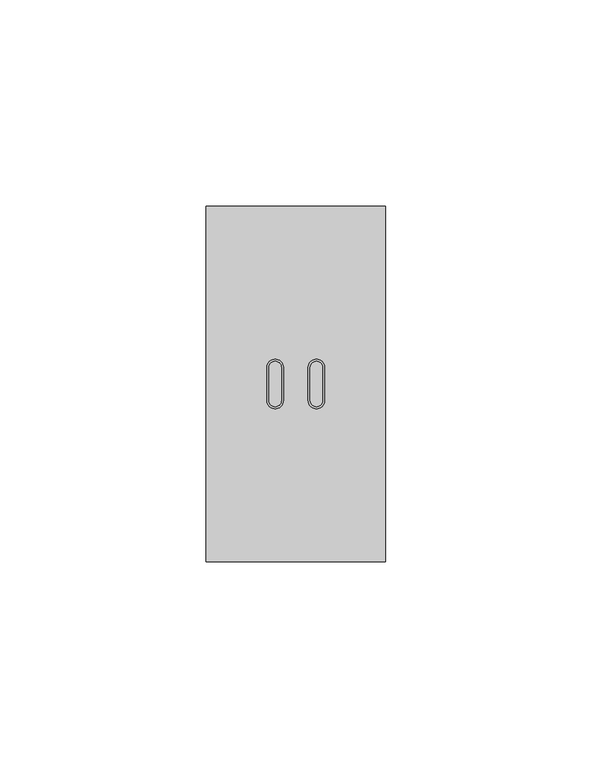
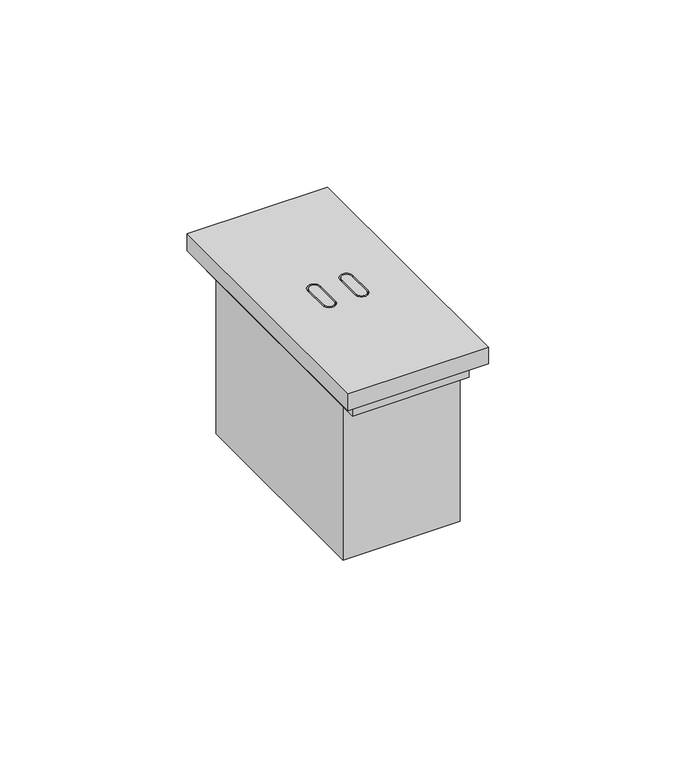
"""IFC4 building model written with IfcOpenShell, lengths in millimetres: proxy geometry, BT_LN-USB_A-K4286C2 : Presa USB-C - K4286C2 - 2M - Cover Nero."""

from ifc_helpers import new_model, si_unit, point, frame, frame_2d, origin, origin_with_axes, place, context, project, spatial, polyline, circle_curve, trimmed, segment, composite_curve, outline, extrude, source, transform, mapped, element, save


def electrical_fixtures_553a6707(model_context):
    return source(origin(), model_context, "Body", "SweptSolid", [
        extrude(outline(composite_curve([segment(trimmed(circle_curve(frame_2d((-5.0, 4.0)), 1.5), [point((-6.5, 4.0))], [point((-3.5, 4.0))], False, "CARTESIAN"), True, "CONTINUOUS"), segment(polyline([(-3.5, 4.0), (-3.5, -4.0)]), True, "CONTINUOUS"), segment(trimmed(circle_curve(frame_2d((-5.0, -4.0)), 1.5), [point((-3.5, -4.0))], [point((-6.5, -4.0))], False, "CARTESIAN"), True, "CONTINUOUS"), segment(polyline([(-6.5, -4.0), (-6.5, 4.0)]), True, "CONTINUOUS")], self_intersect=False)), frame((0.0, 0.0, 55.5), z_axis=(0.0, 0.0, 1.0), x_axis=(1.0, 0.0, 0.0)), (0.0, 0.0, 1.0), 5.5),
        extrude(outline(composite_curve([segment(trimmed(circle_curve(frame_2d((5.0, -4.0)), 1.5), [point((6.5, -4.0))], [point((3.5, -4.0))], False, "CARTESIAN"), True, "CONTINUOUS"), segment(polyline([(3.5, -4.0), (3.5, 4.0)]), True, "CONTINUOUS"), segment(trimmed(circle_curve(frame_2d((5.0, 4.0)), 1.5), [point((3.5, 4.0))], [point((6.5, 4.0))], False, "CARTESIAN"), True, "CONTINUOUS"), segment(polyline([(6.5, 4.0), (6.5, -4.0)]), True, "CONTINUOUS")], self_intersect=False)), frame((0.0, 0.0, 55.5), z_axis=(0.0, 0.0, 1.0), x_axis=(1.0, 0.0, 0.0)), (0.0, 0.0, 1.0), 5.5),
        extrude(outline(polyline([(-18.0, 39.0), (18.0, 39.0), (18.0, -39.0), (-18.0, -39.0), (-18.0, 39.0)])), frame((0.0, 0.0, 50.0), z_axis=(0.0, 0.0, 1.0), x_axis=(1.0, 0.0, 0.0)), (0.0, 0.0, 1.0), 5.5),
        extrude(outline(polyline([(-18.0, 34.0), (18.0, 34.0), (18.0, -34.0), (-18.0, -34.0), (-18.0, 34.0)])), origin_with_axes(), (0.0, 0.0, 1.0), 50.0),
        extrude(outline(polyline([(-21.7, -43.0), (-21.7, 43.0), (21.7, 43.0), (21.7, -43.0), (-21.7, -43.0)]), holes=[composite_curve([segment(polyline([(3.0, 4.0), (3.0, -4.0)]), True, "CONTINUOUS"), segment(trimmed(circle_curve(frame_2d((5.0, -4.0)), 2.0), [point((3.0, -4.0))], [point((7.0, -4.0))], True, "CARTESIAN"), True, "CONTINUOUS"), segment(polyline([(7.0, -4.0), (7.0, 4.0)]), True, "CONTINUOUS"), segment(trimmed(circle_curve(frame_2d((5.0, 4.0)), 2.0), [point((7.0, 4.0))], [point((3.0, 4.0))], True, "CARTESIAN"), True, "CONTINUOUS")], self_intersect=False), composite_curve([segment(polyline([(-7.0, 4.0), (-7.0, -4.0)]), True, "CONTINUOUS"), segment(trimmed(circle_curve(frame_2d((-5.0, -4.0)), 2.0), [point((-7.0, -4.0))], [point((-3.0, -4.0))], True, "CARTESIAN"), True, "CONTINUOUS"), segment(polyline([(-3.0, -4.0), (-3.0, 4.0)]), True, "CONTINUOUS"), segment(trimmed(circle_curve(frame_2d((-5.0, 4.0)), 2.0), [point((-3.0, 4.0))], [point((-7.0, 4.0))], True, "CARTESIAN"), True, "CONTINUOUS")], self_intersect=False)]), frame((0.0, 0.0, 55.5), z_axis=(0.0, 0.0, 1.0), x_axis=(1.0, 0.0, 0.0)), (0.0, 0.0, 1.0), 5.5),
    ])


if __name__ == "__main__":
    model = new_model("IFC4")
    model_context = context("Model", 3, world=origin())
    ifc_project = project(units=[si_unit("LENGTHUNIT", "METRE", prefix="MILLI")], contexts=[model_context])
    site = spatial("IfcSite", under=ifc_project)
    building = spatial("IfcBuilding", under=site)
    placement = place(None, origin())
    electrical_fixtures_shape = electrical_fixtures_553a6707(model_context)
    element("IfcBuildingElementProxy", 1, Name="BT_LN-USB_A-K4286C2 : Presa USB-C - K4286C2 - 2M - Cover Nero", ObjectType="BT_LN-USB_A-K4286C2 : Presa USB-C - K4286C2 - 2M - Cover Nero", at=placement, inside=building, context=model_context, shape_type="MappedRepresentation", body=[
        mapped(electrical_fixtures_shape, transform((0.0, 0.0, 0.0), x_axis=(1.0, 0.0, 0.0), y_axis=(0.0, 1.0, 0.0), z_axis=(0.0, 0.0, 1.0))),
    ])
    save(model, "model.ifc")
